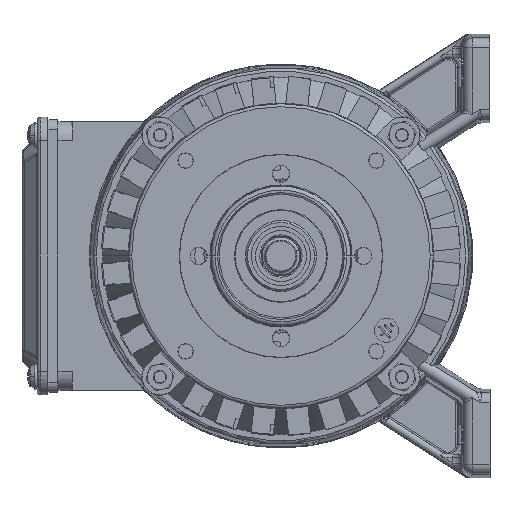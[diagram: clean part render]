
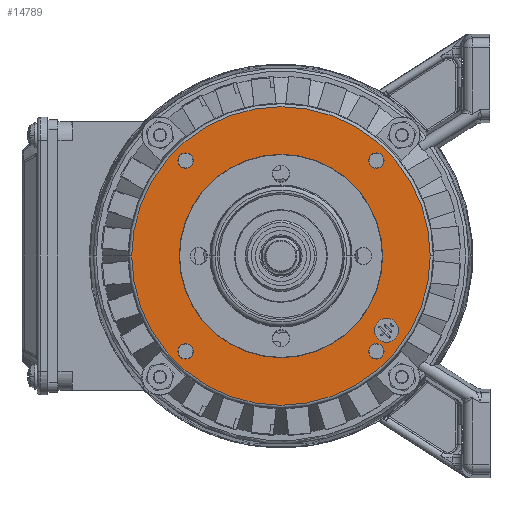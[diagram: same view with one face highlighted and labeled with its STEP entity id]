
A CAD part, left-side view. The second image highlights one B-rep face of the part: STEP entity #14789.
In plain terms, the highlighted planar face has unit normal (-1, 0, 0).
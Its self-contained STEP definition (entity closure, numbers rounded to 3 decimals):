
#767 = CIRCLE ( 'NONE', #37314, 3. ) ;
#1242 = DIRECTION ( 'NONE',  ( 1., 0., 0. ) ) ;
#1604 = CARTESIAN_POINT ( 'NONE',  ( -37.2, 44.944, 124.457 ) ) ;
#1815 = DIRECTION ( 'NONE',  ( 1., 0., 0. ) ) ;
#2532 = EDGE_CURVE ( 'NONE', #61611, #71050, #53909, .T. ) ;
#2808 = VERTEX_POINT ( 'NONE', #57641 ) ;
#2930 = AXIS2_PLACEMENT_3D ( 'NONE', #8944, #58467, #78389 ) ;
#4047 = CARTESIAN_POINT ( 'NONE',  ( -37.2, 45.916, 143.074 ) ) ;
#5092 = AXIS2_PLACEMENT_3D ( 'NONE', #7645, #14958, #50603 ) ;
#6592 = EDGE_CURVE ( 'NONE', #78781, #60192, #11502, .T. ) ;
#6862 = CIRCLE ( 'NONE', #2930, 1.93 ) ;
#7366 = DIRECTION ( 'NONE',  ( 0., 0., 1. ) ) ;
#7645 = CARTESIAN_POINT ( 'NONE',  ( -37.2, 95.271, 119.187 ) ) ;
#7826 = CARTESIAN_POINT ( 'NONE',  ( -37.2, 95.271, 119.187 ) ) ;
#7849 = CARTESIAN_POINT ( 'NONE',  ( -37.2, 97.201, 119.187 ) ) ;
#8569 = CARTESIAN_POINT ( 'NONE',  ( -37.2, 47.496, 166.962 ) ) ;
#8685 = CARTESIAN_POINT ( 'NONE',  ( -37.2, 108.786, 143.074 ) ) ;
#8944 = CARTESIAN_POINT ( 'NONE',  ( -37.2, 47.496, 166.962 ) ) ;
#9734 = CIRCLE ( 'NONE', #43769, 1.93 ) ;
#10070 = FACE_BOUND ( 'NONE', #71288, .T. ) ;
#10504 = ORIENTED_EDGE ( 'NONE', *, *, #18881, .T. ) ;
#10850 = FACE_BOUND ( 'NONE', #21176, .T. ) ;
#11270 = DIRECTION ( 'NONE',  ( 0., 0., 1. ) ) ;
#11502 = CIRCLE ( 'NONE', #16728, 1.93 ) ;
#12295 = EDGE_CURVE ( 'NONE', #67720, #2808, #767, .T. ) ;
#12994 = CARTESIAN_POINT ( 'NONE',  ( -37.2, 45.565, 166.962 ) ) ;
#13086 = CARTESIAN_POINT ( 'NONE',  ( -37.2, 47.496, 119.187 ) ) ;
#14224 = DIRECTION ( 'NONE',  ( 0., 0., 1. ) ) ;
#14258 = CIRCLE ( 'NONE', #79525, 25.467 ) ;
#14435 = CARTESIAN_POINT ( 'NONE',  ( -37.2, 97.201, 166.962 ) ) ;
#14789 = ADVANCED_FACE ( 'NONE', ( #71420, #41203, #78720, #10070, #60021, #60811, #10850 ), #17818, .T. ) ;
#14958 = DIRECTION ( 'NONE',  ( 1., 0., 0. ) ) ;
#15431 = CARTESIAN_POINT ( 'NONE',  ( -37.2, 33.981, 143.074 ) ) ;
#16317 = DIRECTION ( 'NONE',  ( 0., 0., 1. ) ) ;
#16728 = AXIS2_PLACEMENT_3D ( 'NONE', #60950, #30655, #80467 ) ;
#17476 = EDGE_LOOP ( 'NONE', ( #80618, #60309 ) ) ;
#17500 = ORIENTED_EDGE ( 'NONE', *, *, #6592, .T. ) ;
#17556 = CARTESIAN_POINT ( 'NONE',  ( -37.2, 96.85, 143.074 ) ) ;
#17818 = PLANE ( 'NONE',  #48697 ) ;
#18715 = ORIENTED_EDGE ( 'NONE', *, *, #35638, .T. ) ;
#18881 = EDGE_CURVE ( 'NONE', #71050, #61611, #19480, .T. ) ;
#19421 = EDGE_CURVE ( 'NONE', #23291, #60125, #58531, .T. ) ;
#19480 = CIRCLE ( 'NONE', #5092, 1.93 ) ;
#19617 = EDGE_CURVE ( 'NONE', #56120, #50330, #41627, .T. ) ;
#20517 = DIRECTION ( 'NONE',  ( 0., 0., 1. ) ) ;
#20715 = AXIS2_PLACEMENT_3D ( 'NONE', #34278, #53103, #22031 ) ;
#20994 = DIRECTION ( 'NONE',  ( 0., 0., 1. ) ) ;
#21176 = EDGE_LOOP ( 'NONE', ( #69406, #78681 ) ) ;
#22031 = DIRECTION ( 'NONE',  ( 0., 0., -1. ) ) ;
#23051 = AXIS2_PLACEMENT_3D ( 'NONE', #33028, #57967, #14224 ) ;
#23291 = VERTEX_POINT ( 'NONE', #15431 ) ;
#23595 = DIRECTION ( 'NONE',  ( -1., 0., 0. ) ) ;
#23748 = ORIENTED_EDGE ( 'NONE', *, *, #27659, .T. ) ;
#23963 = CARTESIAN_POINT ( 'NONE',  ( -37.2, 71.383, 143.074 ) ) ;
#23973 = VERTEX_POINT ( 'NONE', #50780 ) ;
#24105 = DIRECTION ( 'NONE',  ( 1., 0., 0. ) ) ;
#24477 = AXIS2_PLACEMENT_3D ( 'NONE', #70026, #76924, #20994 ) ;
#25526 = EDGE_LOOP ( 'NONE', ( #18715, #17500 ) ) ;
#27292 = ORIENTED_EDGE ( 'NONE', *, *, #19421, .F. ) ;
#27659 = EDGE_CURVE ( 'NONE', #50330, #56120, #66279, .T. ) ;
#28340 = AXIS2_PLACEMENT_3D ( 'NONE', #8569, #1242, #33537 ) ;
#30655 = DIRECTION ( 'NONE',  ( 1., 0., 0. ) ) ;
#31920 = DIRECTION ( 'NONE',  ( 1., 0., 0. ) ) ;
#33021 = ORIENTED_EDGE ( 'NONE', *, *, #49708, .F. ) ;
#33028 = CARTESIAN_POINT ( 'NONE',  ( -37.2, 71.383, 143.074 ) ) ;
#33537 = DIRECTION ( 'NONE',  ( 0., 0., 1. ) ) ;
#34278 = CARTESIAN_POINT ( 'NONE',  ( -37.2, 71.383, 143.074 ) ) ;
#35598 = AXIS2_PLACEMENT_3D ( 'NONE', #7826, #45888, #20517 ) ;
#35638 = EDGE_CURVE ( 'NONE', #60192, #78781, #9734, .T. ) ;
#37314 = AXIS2_PLACEMENT_3D ( 'NONE', #1604, #76386, #76796 ) ;
#37429 = DIRECTION ( 'NONE',  ( 0., 0., 1. ) ) ;
#37691 = VERTEX_POINT ( 'NONE', #17556 ) ;
#38370 = CIRCLE ( 'NONE', #55342, 3. ) ;
#38989 = AXIS2_PLACEMENT_3D ( 'NONE', #13086, #31920, #7366 ) ;
#39071 = DIRECTION ( 'NONE',  ( 0., 0., 1. ) ) ;
#39490 = ORIENTED_EDGE ( 'NONE', *, *, #2532, .T. ) ;
#39869 = EDGE_LOOP ( 'NONE', ( #33021, #27292 ) ) ;
#41203 = FACE_OUTER_BOUND ( 'NONE', #39869, .T. ) ;
#41627 = CIRCLE ( 'NONE', #38989, 1.93 ) ;
#42399 = ORIENTED_EDGE ( 'NONE', *, *, #75866, .T. ) ;
#42689 = CARTESIAN_POINT ( 'NONE',  ( -37.2, 45.565, 119.187 ) ) ;
#43695 = ORIENTED_EDGE ( 'NONE', *, *, #19617, .T. ) ;
#43769 = AXIS2_PLACEMENT_3D ( 'NONE', #45620, #75382, #39071 ) ;
#44658 = EDGE_CURVE ( 'NONE', #77220, #23973, #6862, .T. ) ;
#45620 = CARTESIAN_POINT ( 'NONE',  ( -37.2, 95.271, 166.962 ) ) ;
#45888 = DIRECTION ( 'NONE',  ( 1., 0., 0. ) ) ;
#46034 = DIRECTION ( 'NONE',  ( 0., 0., -1. ) ) ;
#46716 = EDGE_LOOP ( 'NONE', ( #39490, #10504 ) ) ;
#48697 = AXIS2_PLACEMENT_3D ( 'NONE', #79547, #23595, #11270 ) ;
#48861 = ORIENTED_EDGE ( 'NONE', *, *, #44658, .T. ) ;
#49708 = EDGE_CURVE ( 'NONE', #60125, #23291, #53335, .T. ) ;
#49989 = CARTESIAN_POINT ( 'NONE',  ( -37.2, 93.34, 119.187 ) ) ;
#50330 = VERTEX_POINT ( 'NONE', #80070 ) ;
#50603 = DIRECTION ( 'NONE',  ( 0., 0., 1. ) ) ;
#50780 = CARTESIAN_POINT ( 'NONE',  ( -37.2, 49.426, 166.962 ) ) ;
#51393 = EDGE_CURVE ( 'NONE', #37691, #76113, #14258, .T. ) ;
#53103 = DIRECTION ( 'NONE',  ( 1., 0., 0. ) ) ;
#53335 = CIRCLE ( 'NONE', #20715, 37.403 ) ;
#53909 = CIRCLE ( 'NONE', #35598, 1.93 ) ;
#55342 = AXIS2_PLACEMENT_3D ( 'NONE', #72303, #24105, #16317 ) ;
#56120 = VERTEX_POINT ( 'NONE', #42689 ) ;
#56620 = DIRECTION ( 'NONE',  ( -1., 0., 0. ) ) ;
#57641 = CARTESIAN_POINT ( 'NONE',  ( -37.2, 44.944, 127.457 ) ) ;
#57967 = DIRECTION ( 'NONE',  ( -1., 0., 0. ) ) ;
#58467 = DIRECTION ( 'NONE',  ( 1., 0., 0. ) ) ;
#58531 = CIRCLE ( 'NONE', #71557, 37.403 ) ;
#59331 = EDGE_LOOP ( 'NONE', ( #42399, #48861 ) ) ;
#59506 = EDGE_CURVE ( 'NONE', #2808, #67720, #38370, .T. ) ;
#60021 = FACE_BOUND ( 'NONE', #59331, .T. ) ;
#60125 = VERTEX_POINT ( 'NONE', #8685 ) ;
#60192 = VERTEX_POINT ( 'NONE', #14435 ) ;
#60309 = ORIENTED_EDGE ( 'NONE', *, *, #59506, .T. ) ;
#60811 = FACE_BOUND ( 'NONE', #25526, .T. ) ;
#60950 = CARTESIAN_POINT ( 'NONE',  ( -37.2, 95.271, 166.962 ) ) ;
#61497 = CARTESIAN_POINT ( 'NONE',  ( -37.2, 44.944, 121.457 ) ) ;
#61611 = VERTEX_POINT ( 'NONE', #7849 ) ;
#62300 = CIRCLE ( 'NONE', #28340, 1.93 ) ;
#66279 = CIRCLE ( 'NONE', #24477, 1.93 ) ;
#67720 = VERTEX_POINT ( 'NONE', #61497 ) ;
#69406 = ORIENTED_EDGE ( 'NONE', *, *, #51393, .F. ) ;
#70026 = CARTESIAN_POINT ( 'NONE',  ( -37.2, 47.496, 119.187 ) ) ;
#70792 = CARTESIAN_POINT ( 'NONE',  ( -37.2, 93.34, 166.962 ) ) ;
#71050 = VERTEX_POINT ( 'NONE', #49989 ) ;
#71288 = EDGE_LOOP ( 'NONE', ( #23748, #43695 ) ) ;
#71420 = FACE_BOUND ( 'NONE', #17476, .T. ) ;
#71557 = AXIS2_PLACEMENT_3D ( 'NONE', #77397, #1815, #46034 ) ;
#72303 = CARTESIAN_POINT ( 'NONE',  ( -37.2, 44.944, 124.457 ) ) ;
#75382 = DIRECTION ( 'NONE',  ( 1., 0., 0. ) ) ;
#75866 = EDGE_CURVE ( 'NONE', #23973, #77220, #62300, .T. ) ;
#76113 = VERTEX_POINT ( 'NONE', #4047 ) ;
#76386 = DIRECTION ( 'NONE',  ( 1., 0., 0. ) ) ;
#76796 = DIRECTION ( 'NONE',  ( 0., 0., 1. ) ) ;
#76924 = DIRECTION ( 'NONE',  ( 1., 0., 0. ) ) ;
#77220 = VERTEX_POINT ( 'NONE', #12994 ) ;
#77252 = EDGE_CURVE ( 'NONE', #76113, #37691, #79145, .T. ) ;
#77397 = CARTESIAN_POINT ( 'NONE',  ( -37.2, 71.383, 143.074 ) ) ;
#78389 = DIRECTION ( 'NONE',  ( 0., 0., 1. ) ) ;
#78681 = ORIENTED_EDGE ( 'NONE', *, *, #77252, .F. ) ;
#78720 = FACE_BOUND ( 'NONE', #46716, .T. ) ;
#78781 = VERTEX_POINT ( 'NONE', #70792 ) ;
#79145 = CIRCLE ( 'NONE', #23051, 25.467 ) ;
#79525 = AXIS2_PLACEMENT_3D ( 'NONE', #23963, #56620, #37429 ) ;
#79547 = CARTESIAN_POINT ( 'NONE',  ( -37.2, 103.167, 143.074 ) ) ;
#80070 = CARTESIAN_POINT ( 'NONE',  ( -37.2, 49.426, 119.187 ) ) ;
#80467 = DIRECTION ( 'NONE',  ( 0., 0., 1. ) ) ;
#80618 = ORIENTED_EDGE ( 'NONE', *, *, #12295, .T. ) ;
